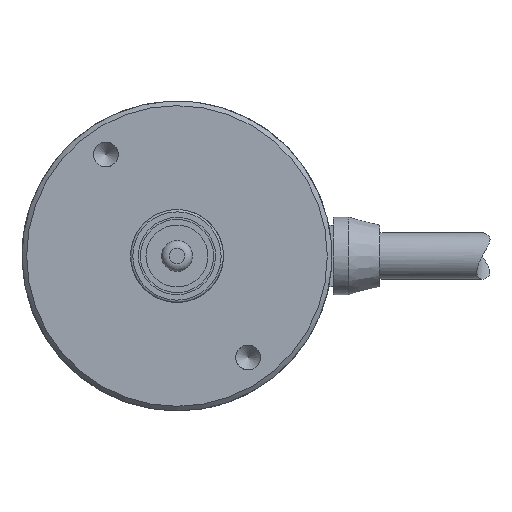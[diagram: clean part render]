
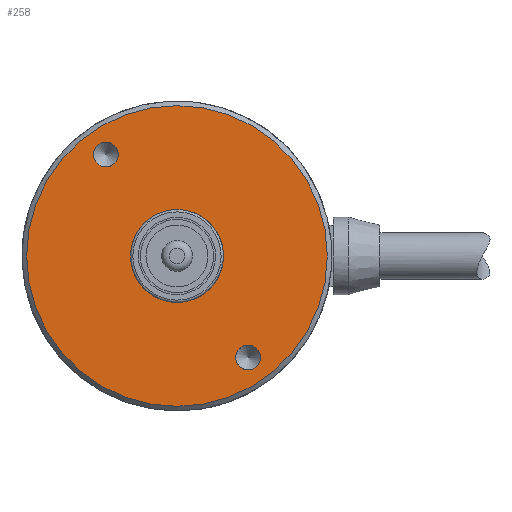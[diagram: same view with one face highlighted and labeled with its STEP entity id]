
A CAD part, left-side view. The second image highlights one B-rep face of the part: STEP entity #258.
In plain terms, the highlighted planar face has unit normal (-1, 0, 0).
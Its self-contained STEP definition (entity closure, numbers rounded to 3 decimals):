
#258=ADVANCED_FACE('',(#557,#558,#559,#560),#561,.F.);
#557=FACE_OUTER_BOUND('',#980,.T.);
#558=FACE_BOUND('',#981,.T.);
#559=FACE_BOUND('',#982,.T.);
#560=FACE_BOUND('',#983,.T.);
#561=PLANE('',#984);
#980=EDGE_LOOP('',(#1527));
#981=EDGE_LOOP('',(#1528));
#982=EDGE_LOOP('',(#1529));
#983=EDGE_LOOP('',(#1530));
#984=AXIS2_PLACEMENT_3D('',#1531,#1532,#1533);
#1527=ORIENTED_EDGE('',*,*,#2336,.T.);
#1528=ORIENTED_EDGE('',*,*,#2337,.F.);
#1529=ORIENTED_EDGE('',*,*,#2338,.F.);
#1530=ORIENTED_EDGE('',*,*,#2329,.F.);
#1531=CARTESIAN_POINT('',(0.,6.5,0.0));
#1532=DIRECTION('',(1.0,0.0,0.0));
#1533=DIRECTION('',(0.0,0.0,-1.0));
#2329=EDGE_CURVE('',#2726,#2726,#2727,.T.);
#2336=EDGE_CURVE('',#2736,#2736,#2737,.F.);
#2337=EDGE_CURVE('',#2738,#2738,#2739,.T.);
#2338=EDGE_CURVE('',#2740,#2740,#2741,.T.);
#2726=VERTEX_POINT('',#3373);
#2727=CIRCLE('',#3374,3.0);
#2736=VERTEX_POINT('',#3383);
#2737=CIRCLE('',#3384,9.7);
#2738=VERTEX_POINT('',#3385);
#2739=CIRCLE('',#3386,0.8);
#2740=VERTEX_POINT('',#3387);
#2741=CIRCLE('',#3388,0.8);
#3373=CARTESIAN_POINT('',(0.,0.0,3.0));
#3374=AXIS2_PLACEMENT_3D('',#4306,#4307,#4308);
#3383=CARTESIAN_POINT('',(0.,0.,-9.7));
#3384=AXIS2_PLACEMENT_3D('',#4321,#4322,#4323);
#3385=CARTESIAN_POINT('',(0.,-5.047,-7.209));
#3386=AXIS2_PLACEMENT_3D('',#4324,#4325,#4326);
#3387=CARTESIAN_POINT('',(0.,5.047,7.209));
#3388=AXIS2_PLACEMENT_3D('',#4327,#4328,#4329);
#4306=CARTESIAN_POINT('',(0.,0.0,0.0));
#4307=DIRECTION('',(-1.0,0.0,0.0));
#4308=DIRECTION('',(0.0,0.0,1.0));
#4321=CARTESIAN_POINT('',(0.,0.0,0.0));
#4322=DIRECTION('',(1.0,0.0,0.0));
#4323=DIRECTION('',(0.0,0.0,-1.0));
#4324=CARTESIAN_POINT('',(0.,-4.589,-6.553));
#4325=DIRECTION('',(-1.0,-0.0,0.0));
#4326=DIRECTION('',(0.0,-0.574,-0.819));
#4327=CARTESIAN_POINT('',(0.,4.589,6.553));
#4328=DIRECTION('',(-1.0,0.0,0.0));
#4329=DIRECTION('',(0.0,0.574,0.819));
